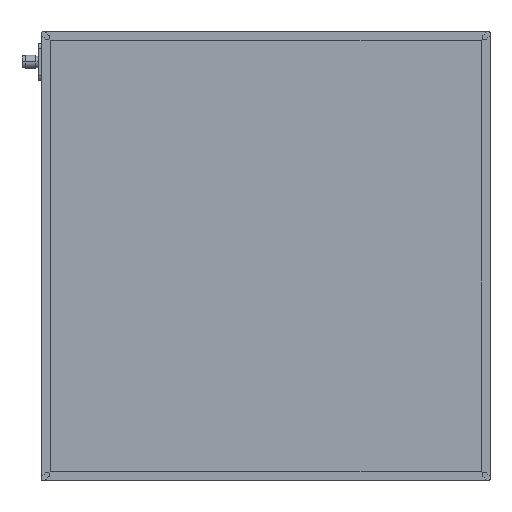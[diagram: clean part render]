
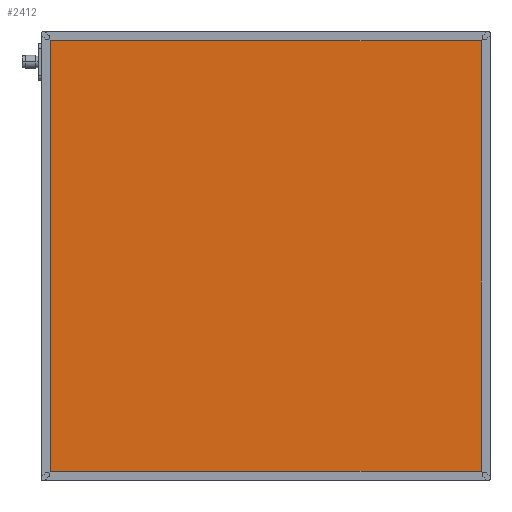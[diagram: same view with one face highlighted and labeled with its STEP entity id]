
A CAD part, top view. The second image highlights one B-rep face of the part: STEP entity #2412.
In plain terms, the highlighted planar face has unit normal (0, 0, 1).
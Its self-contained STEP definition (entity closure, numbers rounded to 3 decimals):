
#189 = VERTEX_POINT ( 'NONE', #10460 ) ;
#223 = CARTESIAN_POINT ( 'NONE',  ( 396., 396., 41.85 ) ) ;
#890 = ORIENTED_EDGE ( 'NONE', *, *, #14518, .T. ) ;
#1404 = DIRECTION ( 'NONE',  ( 0., 1., 0. ) ) ;
#2412 = ADVANCED_FACE ( 'NONE', ( #5511 ), #6804, .F. ) ;
#2714 = LINE ( 'NONE', #8031, #16252 ) ;
#2951 = AXIS2_PLACEMENT_3D ( 'NONE', #10841, #7414, #6014 ) ;
#4917 = DIRECTION ( 'NONE',  ( 1., 0., 0. ) ) ;
#5511 = FACE_OUTER_BOUND ( 'NONE', #15512, .T. ) ;
#5844 = ORIENTED_EDGE ( 'NONE', *, *, #9183, .T. ) ;
#5915 = CARTESIAN_POINT ( 'NONE',  ( 0., 396., 41.85 ) ) ;
#6014 = DIRECTION ( 'NONE',  ( -1., 0., 0. ) ) ;
#6804 = PLANE ( 'NONE',  #2951 ) ;
#7414 = DIRECTION ( 'NONE',  ( 0., 0., -1. ) ) ;
#7542 = EDGE_CURVE ( 'NONE', #16672, #12305, #12555, .T. ) ;
#8031 = CARTESIAN_POINT ( 'NONE',  ( 396., 0., 41.85 ) ) ;
#8301 = VECTOR ( 'NONE', #11243, 1000. ) ;
#8972 = CARTESIAN_POINT ( 'NONE',  ( 4., 0., 41.85 ) ) ;
#9183 = EDGE_CURVE ( 'NONE', #189, #16672, #2714, .T. ) ;
#9267 = ORIENTED_EDGE ( 'NONE', *, *, #7542, .T. ) ;
#9403 = VECTOR ( 'NONE', #15494, 1000. ) ;
#9884 = VERTEX_POINT ( 'NONE', #13448 ) ;
#10159 = CARTESIAN_POINT ( 'NONE',  ( 0., 4., 41.85 ) ) ;
#10460 = CARTESIAN_POINT ( 'NONE',  ( 396., 4., 41.85 ) ) ;
#10841 = CARTESIAN_POINT ( 'NONE',  ( 0., 0., 41.85 ) ) ;
#11243 = DIRECTION ( 'NONE',  ( -1., 0., 0. ) ) ;
#11557 = LINE ( 'NONE', #10159, #15256 ) ;
#12305 = VERTEX_POINT ( 'NONE', #13758 ) ;
#12353 = EDGE_CURVE ( 'NONE', #12305, #9884, #14196, .T. ) ;
#12555 = LINE ( 'NONE', #5915, #8301 ) ;
#13448 = CARTESIAN_POINT ( 'NONE',  ( 4., 4., 41.85 ) ) ;
#13653 = ORIENTED_EDGE ( 'NONE', *, *, #12353, .T. ) ;
#13758 = CARTESIAN_POINT ( 'NONE',  ( 4., 396., 41.85 ) ) ;
#14196 = LINE ( 'NONE', #8972, #9403 ) ;
#14518 = EDGE_CURVE ( 'NONE', #9884, #189, #11557, .T. ) ;
#15256 = VECTOR ( 'NONE', #4917, 1000. ) ;
#15494 = DIRECTION ( 'NONE',  ( 0., -1., 0. ) ) ;
#15512 = EDGE_LOOP ( 'NONE', ( #5844, #9267, #13653, #890 ) ) ;
#16252 = VECTOR ( 'NONE', #1404, 1000. ) ;
#16672 = VERTEX_POINT ( 'NONE', #223 ) ;
